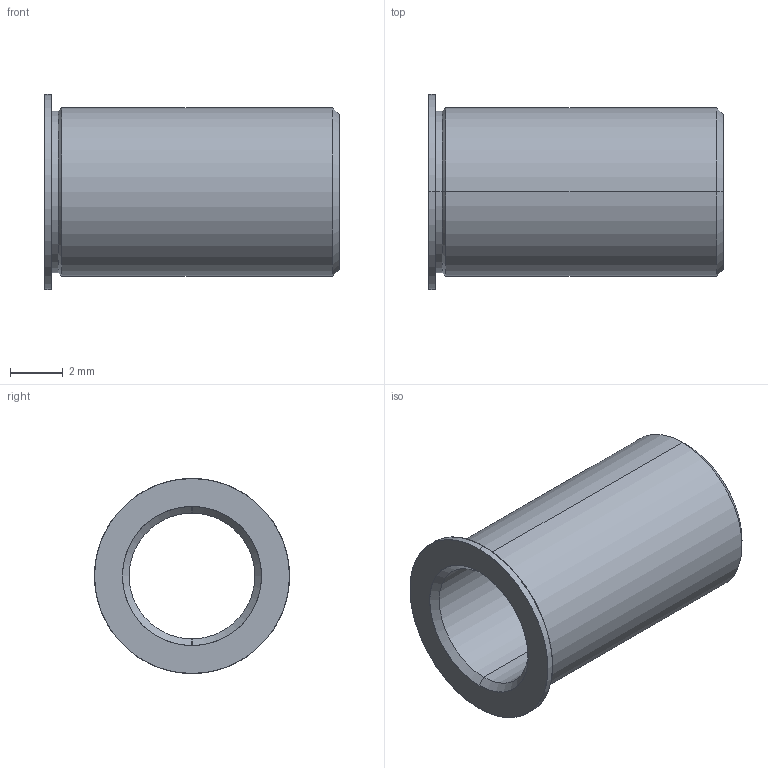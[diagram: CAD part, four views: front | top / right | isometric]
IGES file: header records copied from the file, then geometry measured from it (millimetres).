
Start section: SolidWorks IGES file using analytic representation for surfaces
Global section: file name: C:\Users\workpc\Desktop\KMA Solidworks\TS250-100 Series\TB187-100-438.IGS; native system: SolidWorks 2013; preprocessor: SolidWorks 2013; author: workpc; date: 130213.100058; units: inch
Bounding box: 11.13 x 7.37 x 7.37 mm (x, y, z)
Surface area: 434.9 mm2 (no closed solid volume)
Topology: 0 solids, 0 shells, 19 faces, 256 edges, 256 vertices
Faces by surface type: revolution 16, bspline 3
